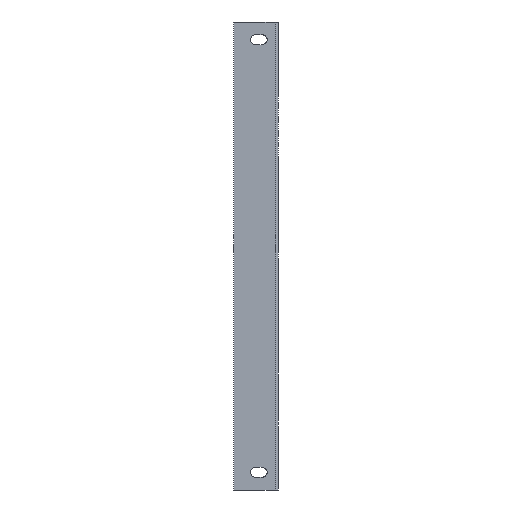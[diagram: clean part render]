
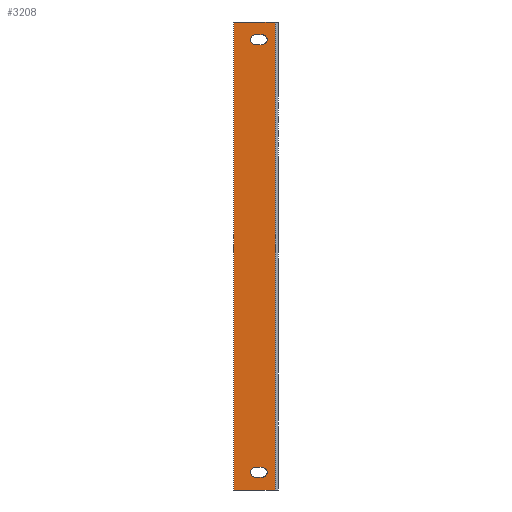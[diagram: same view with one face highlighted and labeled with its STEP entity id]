
A CAD part, front view. The second image highlights one B-rep face of the part: STEP entity #3208.
In plain terms, the highlighted planar face has unit normal (0, -1, 0).
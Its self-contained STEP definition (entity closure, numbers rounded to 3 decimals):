
#241=LINE('',#5044,#465);
#244=LINE('',#5053,#468);
#248=LINE('',#5065,#472);
#250=LINE('',#5069,#474);
#255=LINE('',#5086,#479);
#256=LINE('',#5090,#480);
#257=LINE('',#5091,#481);
#258=LINE('',#5092,#482);
#465=VECTOR('',#3877,1000.);
#468=VECTOR('',#3888,1000.);
#472=VECTOR('',#3898,1000.);
#474=VECTOR('',#3902,1000.);
#479=VECTOR('',#3915,1000.);
#480=VECTOR('',#3918,1000.);
#481=VECTOR('',#3919,1000.);
#482=VECTOR('',#3920,1000.);
#825=ORIENTED_EDGE('',*,*,#1700,.T.);
#826=ORIENTED_EDGE('',*,*,#1703,.T.);
#827=ORIENTED_EDGE('',*,*,#1706,.T.);
#828=ORIENTED_EDGE('',*,*,#1708,.T.);
#829=ORIENTED_EDGE('',*,*,#1723,.F.);
#830=ORIENTED_EDGE('',*,*,#1724,.F.);
#831=ORIENTED_EDGE('',*,*,#1725,.F.);
#832=ORIENTED_EDGE('',*,*,#1726,.F.);
#833=ORIENTED_EDGE('',*,*,#1714,.T.);
#834=ORIENTED_EDGE('',*,*,#1727,.T.);
#835=ORIENTED_EDGE('',*,*,#1716,.T.);
#836=ORIENTED_EDGE('',*,*,#1728,.T.);
#1700=EDGE_CURVE('',#2150,#2152,#2386,.T.);
#1703=EDGE_CURVE('',#2152,#2154,#241,.T.);
#1706=EDGE_CURVE('',#2154,#2156,#2388,.T.);
#1708=EDGE_CURVE('',#2156,#2150,#244,.T.);
#1714=EDGE_CURVE('',#2162,#2161,#248,.T.);
#1716=EDGE_CURVE('',#2163,#2164,#250,.T.);
#1723=EDGE_CURVE('',#2169,#2170,#2393,.T.);
#1724=EDGE_CURVE('',#2171,#2169,#255,.T.);
#1725=EDGE_CURVE('',#2172,#2171,#2394,.T.);
#1726=EDGE_CURVE('',#2170,#2172,#256,.T.);
#1727=EDGE_CURVE('',#2161,#2163,#257,.T.);
#1728=EDGE_CURVE('',#2164,#2162,#258,.T.);
#2150=VERTEX_POINT('',#5033);
#2152=VERTEX_POINT('',#5037);
#2154=VERTEX_POINT('',#5043);
#2156=VERTEX_POINT('',#5049);
#2161=VERTEX_POINT('',#5064);
#2162=VERTEX_POINT('',#5066);
#2163=VERTEX_POINT('',#5070);
#2164=VERTEX_POINT('',#5071);
#2169=VERTEX_POINT('',#5084);
#2170=VERTEX_POINT('',#5085);
#2171=VERTEX_POINT('',#5087);
#2172=VERTEX_POINT('',#5089);
#2386=CIRCLE('',#3458,5.563);
#2388=CIRCLE('',#3462,5.563);
#2393=CIRCLE('',#3471,5.563);
#2394=CIRCLE('',#3472,5.563);
#2519=EDGE_LOOP('',(#825,#826,#827,#828));
#2520=EDGE_LOOP('',(#829,#830,#831,#832));
#2521=EDGE_LOOP('',(#833,#834,#835,#836));
#2839=FACE_BOUND('',#2519,.T.);
#2840=FACE_BOUND('',#2520,.T.);
#2841=FACE_BOUND('',#2521,.T.);
#3102=PLANE('',#3470);
#3208=ADVANCED_FACE('',(#2839,#2840,#2841),#3102,.T.);
#3458=AXIS2_PLACEMENT_3D('',#5038,#3871,#3872);
#3462=AXIS2_PLACEMENT_3D('',#5050,#3883,#3884);
#3470=AXIS2_PLACEMENT_3D('',#5082,#3911,#3912);
#3471=AXIS2_PLACEMENT_3D('',#5083,#3913,#3914);
#3472=AXIS2_PLACEMENT_3D('',#5088,#3916,#3917);
#3871=DIRECTION('',(0.,1.,0.));
#3872=DIRECTION('',(-1.,0.,0.));
#3877=DIRECTION('',(-1.,0.,0.));
#3883=DIRECTION('',(0.,1.,0.));
#3884=DIRECTION('',(1.,0.,0.));
#3888=DIRECTION('',(1.,0.,0.));
#3898=DIRECTION('',(1.,0.,0.));
#3902=DIRECTION('',(-1.,0.,0.));
#3911=DIRECTION('',(0.,-1.,0.));
#3912=DIRECTION('',(0.,0.,-1.));
#3913=DIRECTION('',(0.,-1.,0.));
#3914=DIRECTION('',(-1.,0.,0.));
#3915=DIRECTION('',(1.,0.,0.));
#3916=DIRECTION('',(0.,-1.,0.));
#3917=DIRECTION('',(1.,0.,0.));
#3918=DIRECTION('',(-1.,0.,0.));
#3919=DIRECTION('',(0.,0.,1.));
#3920=DIRECTION('',(0.,0.,-1.));
#5033=CARTESIAN_POINT('',(7.137,0.,252.425));
#5037=CARTESIAN_POINT('',(7.137,0.,241.3));
#5038=CARTESIAN_POINT('',(7.137,0.,246.863));
#5043=CARTESIAN_POINT('',(-0.787,0.,241.3));
#5044=CARTESIAN_POINT('',(-0.787,0.,241.3));
#5049=CARTESIAN_POINT('',(-0.787,0.,252.425));
#5050=CARTESIAN_POINT('',(-0.787,0.,246.863));
#5053=CARTESIAN_POINT('',(-0.787,0.,252.425));
#5064=CARTESIAN_POINT('',(21.768,0.,-267.081));
#5065=CARTESIAN_POINT('',(-25.4,0.,-267.081));
#5066=CARTESIAN_POINT('',(-25.4,0.,-267.081));
#5069=CARTESIAN_POINT('',(25.4,0.,267.081));
#5070=CARTESIAN_POINT('',(21.768,0.,267.081));
#5071=CARTESIAN_POINT('',(-25.4,0.,267.081));
#5082=CARTESIAN_POINT('',(-25.4,0.,-267.081));
#5083=CARTESIAN_POINT('',(7.137,0.,-246.863));
#5084=CARTESIAN_POINT('',(7.137,0.,-252.425));
#5085=CARTESIAN_POINT('',(7.137,0.,-241.3));
#5086=CARTESIAN_POINT('',(-0.787,0.,-252.425));
#5087=CARTESIAN_POINT('',(-0.787,0.,-252.425));
#5088=CARTESIAN_POINT('',(-0.787,0.,-246.863));
#5089=CARTESIAN_POINT('',(-0.787,0.,-241.3));
#5090=CARTESIAN_POINT('',(-0.787,0.,-241.3));
#5091=CARTESIAN_POINT('',(21.768,0.,-267.081));
#5092=CARTESIAN_POINT('',(-25.4,0.,267.081));
